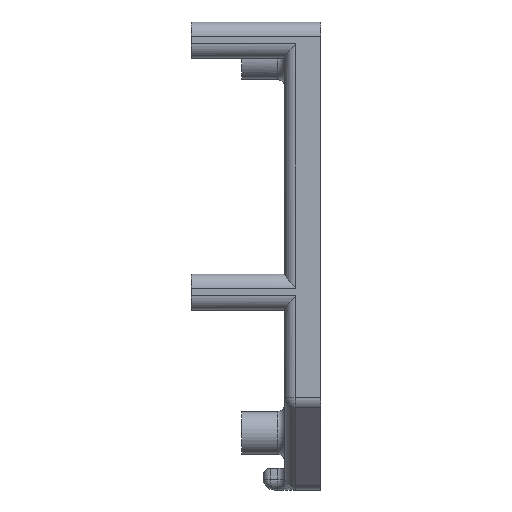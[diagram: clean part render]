
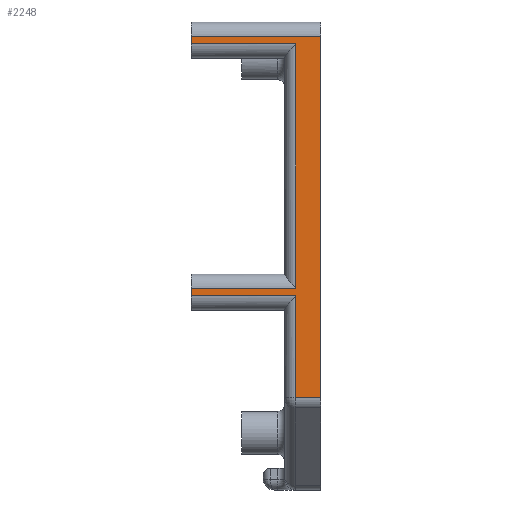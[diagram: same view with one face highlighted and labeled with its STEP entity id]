
A CAD part, left-side view. The second image highlights one B-rep face of the part: STEP entity #2248.
In plain terms, the highlighted planar face has unit normal (-1, 0, 0).
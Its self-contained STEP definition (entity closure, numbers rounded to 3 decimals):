
#479 = DIRECTION ( 'NONE',  ( 0., 0., -1. ) ) ;
#480 = DIRECTION ( 'NONE',  ( 1., 0., 0. ) ) ;
#486 = CARTESIAN_POINT ( 'NONE',  ( 0., 5., 0. ) ) ;
#489 = PLANE ( 'NONE',  #4753 ) ;
#1169 = EDGE_LOOP ( 'NONE', ( #1262, #5492, #5559, #5468, #5564, #5487, #5447, #5451, #5517, #1266 ) ) ;
#1262 = ORIENTED_EDGE ( 'NONE', *, *, #4489, .T. ) ;
#1266 = ORIENTED_EDGE ( 'NONE', *, *, #4476, .F. ) ;
#2248 = ADVANCED_FACE ( 'NONE', ( #5413 ), #489, .F. ) ;
#3051 = CARTESIAN_POINT ( 'NONE',  ( 0., 18., -3. ) ) ;
#3057 = CARTESIAN_POINT ( 'NONE',  ( 0., 3.5, -3. ) ) ;
#3064 = CARTESIAN_POINT ( 'NONE',  ( 0., 18., -37. ) ) ;
#3161 = CARTESIAN_POINT ( 'NONE',  ( 0., 0., -2. ) ) ;
#3164 = CARTESIAN_POINT ( 'NONE',  ( 0., 3.5, -37. ) ) ;
#3169 = CARTESIAN_POINT ( 'NONE',  ( 0., 3.5, -52.172 ) ) ;
#3178 = CARTESIAN_POINT ( 'NONE',  ( 0., 3.5, -38. ) ) ;
#3211 = CARTESIAN_POINT ( 'NONE',  ( 0., 18., -2. ) ) ;
#3234 = CARTESIAN_POINT ( 'NONE',  ( 0., 0., -52.172 ) ) ;
#3263 = CARTESIAN_POINT ( 'NONE',  ( 0., 18., -38. ) ) ;
#3390 = CARTESIAN_POINT ( 'NONE',  ( 0., 0., 0. ) ) ;
#3391 = DIRECTION ( 'NONE',  ( 0., 0., 1. ) ) ;
#3432 = CARTESIAN_POINT ( 'NONE',  ( 0., 18., -40. ) ) ;
#3433 = DIRECTION ( 'NONE',  ( 0., 0., 1. ) ) ;
#3434 = CARTESIAN_POINT ( 'NONE',  ( 0., 18., -37. ) ) ;
#3435 = DIRECTION ( 'NONE',  ( 0., 1., 0. ) ) ;
#3438 = CARTESIAN_POINT ( 'NONE',  ( 0., 18., -5. ) ) ;
#3439 = DIRECTION ( 'NONE',  ( 0., 0., 1. ) ) ;
#3473 = CARTESIAN_POINT ( 'NONE',  ( 0., 5., -38. ) ) ;
#3474 = DIRECTION ( 'NONE',  ( 0., -1., 0. ) ) ;
#3475 = CARTESIAN_POINT ( 'NONE',  ( 0., 3.5, 0. ) ) ;
#3476 = DIRECTION ( 'NONE',  ( 0., 0., -1. ) ) ;
#3479 = CARTESIAN_POINT ( 'NONE',  ( 0., 3.5, 0. ) ) ;
#3480 = DIRECTION ( 'NONE',  ( 0., 0., -1. ) ) ;
#3481 = CARTESIAN_POINT ( 'NONE',  ( 0., 5., -3. ) ) ;
#3482 = DIRECTION ( 'NONE',  ( 0., -1., 0. ) ) ;
#3485 = CARTESIAN_POINT ( 'NONE',  ( 0., 0., -52.172 ) ) ;
#3486 = DIRECTION ( 'NONE',  ( 0., -1., 0. ) ) ;
#3489 = CARTESIAN_POINT ( 'NONE',  ( 0., 5., -2. ) ) ;
#3490 = DIRECTION ( 'NONE',  ( 0., 1., 0. ) ) ;
#3663 = LINE ( 'NONE', #3390, #3664 ) ;
#3664 = VECTOR ( 'NONE', #3391, 1000. ) ;
#3687 = LINE ( 'NONE', #3432, #3691 ) ;
#3690 = LINE ( 'NONE', #3438, #3693 ) ;
#3691 = VECTOR ( 'NONE', #3433, 1000. ) ;
#3693 = VECTOR ( 'NONE', #3439, 1000. ) ;
#3695 = LINE ( 'NONE', #3434, #3696 ) ;
#3696 = VECTOR ( 'NONE', #3435, 1000. ) ;
#3706 = LINE ( 'NONE', #3473, #3707 ) ;
#3707 = VECTOR ( 'NONE', #3474, 1000. ) ;
#3708 = LINE ( 'NONE', #3475, #3709 ) ;
#3709 = VECTOR ( 'NONE', #3476, 1000. ) ;
#3712 = LINE ( 'NONE', #3479, #3713 ) ;
#3713 = VECTOR ( 'NONE', #3480, 1000. ) ;
#3714 = LINE ( 'NONE', #3481, #3715 ) ;
#3715 = VECTOR ( 'NONE', #3482, 1000. ) ;
#3718 = LINE ( 'NONE', #3485, #3719 ) ;
#3719 = VECTOR ( 'NONE', #3486, 1000. ) ;
#3722 = LINE ( 'NONE', #3489, #3723 ) ;
#3723 = VECTOR ( 'NONE', #3490, 1000. ) ;
#3887 = VERTEX_POINT ( 'NONE', #3051 ) ;
#3893 = VERTEX_POINT ( 'NONE', #3057 ) ;
#3900 = VERTEX_POINT ( 'NONE', #3064 ) ;
#3999 = VERTEX_POINT ( 'NONE', #3161 ) ;
#4002 = VERTEX_POINT ( 'NONE', #3164 ) ;
#4007 = VERTEX_POINT ( 'NONE', #3169 ) ;
#4016 = VERTEX_POINT ( 'NONE', #3178 ) ;
#4049 = VERTEX_POINT ( 'NONE', #3211 ) ;
#4072 = VERTEX_POINT ( 'NONE', #3234 ) ;
#4101 = VERTEX_POINT ( 'NONE', #3263 ) ;
#4458 = EDGE_CURVE ( 'NONE', #4072, #3999, #3663, .T. ) ;
#4476 = EDGE_CURVE ( 'NONE', #4101, #3900, #3687, .T. ) ;
#4477 = EDGE_CURVE ( 'NONE', #4002, #3900, #3695, .T. ) ;
#4479 = EDGE_CURVE ( 'NONE', #3887, #4049, #3690, .T. ) ;
#4489 = EDGE_CURVE ( 'NONE', #4101, #4016, #3706, .T. ) ;
#4490 = EDGE_CURVE ( 'NONE', #4016, #4007, #3708, .T. ) ;
#4492 = EDGE_CURVE ( 'NONE', #3893, #4002, #3712, .T. ) ;
#4493 = EDGE_CURVE ( 'NONE', #3887, #3893, #3714, .T. ) ;
#4495 = EDGE_CURVE ( 'NONE', #4007, #4072, #3718, .T. ) ;
#4497 = EDGE_CURVE ( 'NONE', #3999, #4049, #3722, .T. ) ;
#4753 = AXIS2_PLACEMENT_3D ( 'NONE', #486, #480, #479 ) ;
#5413 = FACE_OUTER_BOUND ( 'NONE', #1169, .T. ) ;
#5447 = ORIENTED_EDGE ( 'NONE', *, *, #4493, .T. ) ;
#5451 = ORIENTED_EDGE ( 'NONE', *, *, #4492, .T. ) ;
#5468 = ORIENTED_EDGE ( 'NONE', *, *, #4458, .T. ) ;
#5487 = ORIENTED_EDGE ( 'NONE', *, *, #4479, .F. ) ;
#5492 = ORIENTED_EDGE ( 'NONE', *, *, #4490, .T. ) ;
#5517 = ORIENTED_EDGE ( 'NONE', *, *, #4477, .T. ) ;
#5559 = ORIENTED_EDGE ( 'NONE', *, *, #4495, .T. ) ;
#5564 = ORIENTED_EDGE ( 'NONE', *, *, #4497, .T. ) ;
